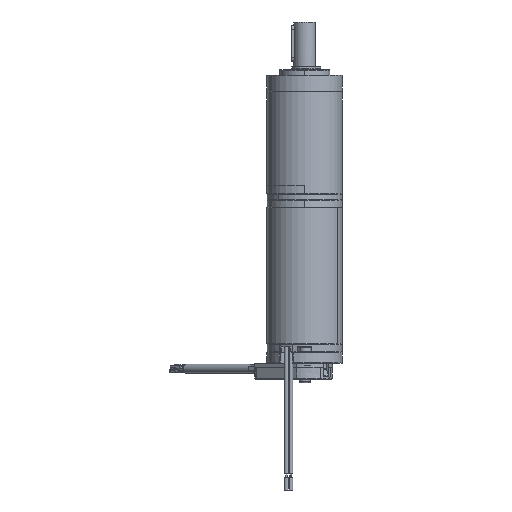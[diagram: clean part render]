
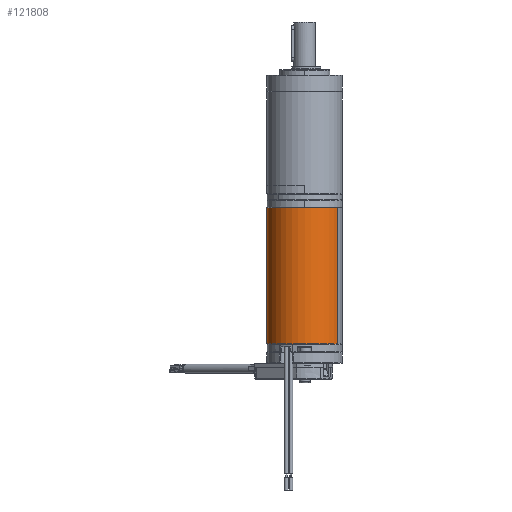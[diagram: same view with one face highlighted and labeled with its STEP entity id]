
A CAD part, left-side view. The second image highlights one B-rep face of the part: STEP entity #121808.
In plain terms, the highlighted cylindrical face has radius 21 mm (diameter 42 mm), a partial arc.
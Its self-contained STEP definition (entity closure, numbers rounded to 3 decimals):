
#1260 = EDGE_CURVE ( 'NONE', #27260, #8221, #175388, .T. ) ;
#8221 = VERTEX_POINT ( 'NONE', #61149 ) ;
#21459 = DIRECTION ( 'NONE',  ( 0., 0., 1. ) ) ;
#22779 = AXIS2_PLACEMENT_3D ( 'NONE', #176592, #108362, #52072 ) ;
#25600 = EDGE_CURVE ( 'NONE', #86063, #27260, #168876, .T. ) ;
#26416 = LINE ( 'NONE', #81862, #107288 ) ;
#27260 = VERTEX_POINT ( 'NONE', #128129 ) ;
#34216 = CARTESIAN_POINT ( 'NONE',  ( 5.131, -8.599, -13.915 ) ) ;
#38567 = EDGE_LOOP ( 'NONE', ( #107521, #82686, #51873, #137729 ) ) ;
#41239 = EDGE_CURVE ( 'NONE', #171527, #86063, #149866, .T. ) ;
#43500 = CARTESIAN_POINT ( 'NONE',  ( 15.552, 9.632, 7.935 ) ) ;
#51873 = ORIENTED_EDGE ( 'NONE', *, *, #25600, .T. ) ;
#52072 = DIRECTION ( 'NONE',  ( 0.496, 0.868, 0. ) ) ;
#57137 = DIRECTION ( 'NONE',  ( 0., 0., -1. ) ) ;
#61149 = CARTESIAN_POINT ( 'NONE',  ( -5.29, -26.831, -13.915 ) ) ;
#66681 = EDGE_CURVE ( 'NONE', #171527, #8221, #26416, .T. ) ;
#81862 = CARTESIAN_POINT ( 'NONE',  ( -5.29, -26.831, 7.935 ) ) ;
#82686 = ORIENTED_EDGE ( 'NONE', *, *, #41239, .T. ) ;
#82747 = VECTOR ( 'NONE', #57137, 1000. ) ;
#86063 = VERTEX_POINT ( 'NONE', #100525 ) ;
#90905 = CARTESIAN_POINT ( 'NONE',  ( -5.29, -26.831, 61.785 ) ) ;
#94681 = FACE_OUTER_BOUND ( 'NONE', #38567, .T. ) ;
#96948 = AXIS2_PLACEMENT_3D ( 'NONE', #34216, #21459, #116917 ) ;
#100525 = CARTESIAN_POINT ( 'NONE',  ( 15.552, 9.632, 61.785 ) ) ;
#107288 = VECTOR ( 'NONE', #151784, 1000. ) ;
#107449 = DIRECTION ( 'NONE',  ( -0.496, -0.868, 0. ) ) ;
#107521 = ORIENTED_EDGE ( 'NONE', *, *, #66681, .F. ) ;
#108362 = DIRECTION ( 'NONE',  ( 0., 0., -1. ) ) ;
#116917 = DIRECTION ( 'NONE',  ( -0.496, -0.868, 0. ) ) ;
#120179 = CYLINDRICAL_SURFACE ( 'NONE', #22779, 21. ) ;
#121808 = ADVANCED_FACE ( 'NONE', ( #94681 ), #120179, .T. ) ;
#128129 = CARTESIAN_POINT ( 'NONE',  ( 15.552, 9.632, -13.915 ) ) ;
#137405 = CARTESIAN_POINT ( 'NONE',  ( 5.131, -8.599, 61.785 ) ) ;
#137729 = ORIENTED_EDGE ( 'NONE', *, *, #1260, .T. ) ;
#148288 = DIRECTION ( 'NONE',  ( 0., 0., -1. ) ) ;
#149866 = CIRCLE ( 'NONE', #176035, 21. ) ;
#151784 = DIRECTION ( 'NONE',  ( 0., 0., -1. ) ) ;
#168876 = LINE ( 'NONE', #43500, #82747 ) ;
#171527 = VERTEX_POINT ( 'NONE', #90905 ) ;
#175388 = CIRCLE ( 'NONE', #96948, 21. ) ;
#176035 = AXIS2_PLACEMENT_3D ( 'NONE', #137405, #148288, #107449 ) ;
#176592 = CARTESIAN_POINT ( 'NONE',  ( 5.131, -8.599, 7.935 ) ) ;
